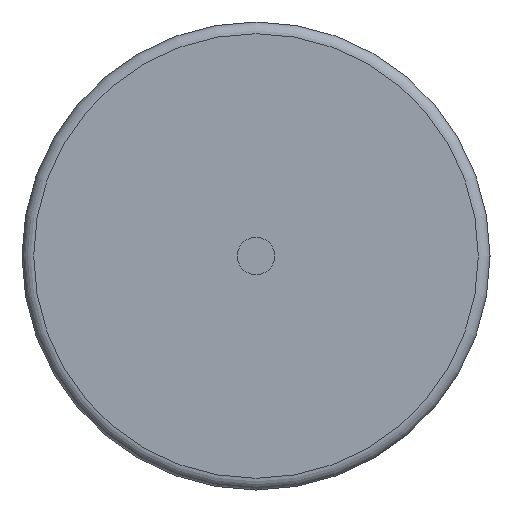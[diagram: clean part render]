
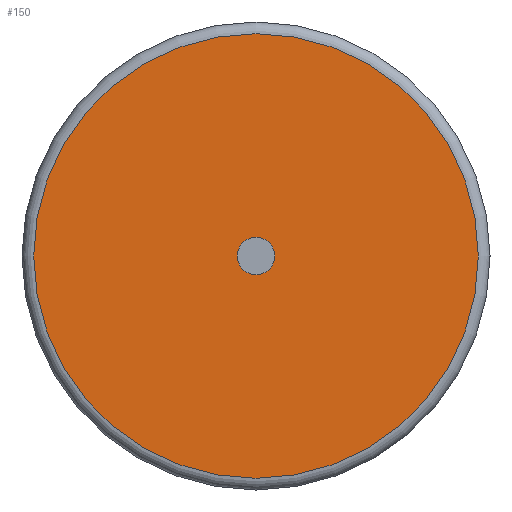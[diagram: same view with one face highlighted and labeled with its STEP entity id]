
A CAD part, left-side view. The second image highlights one B-rep face of the part: STEP entity #150.
In plain terms, the highlighted planar face has unit normal (-1, 0, 0).
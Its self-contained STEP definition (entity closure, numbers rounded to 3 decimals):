
#15=PLANE('',#172);
#28=FACE_BOUND('',#58,.T.);
#39=FACE_OUTER_BOUND('',#57,.T.);
#57=EDGE_LOOP('',(#117));
#58=EDGE_LOOP('',(#118));
#76=CIRCLE('',#169,4.75);
#78=CIRCLE('',#173,0.4);
#88=VERTEX_POINT('',#252);
#90=VERTEX_POINT('',#258);
#100=EDGE_CURVE('',#88,#88,#76,.T.);
#102=EDGE_CURVE('',#90,#90,#78,.T.);
#117=ORIENTED_EDGE('',*,*,#100,.F.);
#118=ORIENTED_EDGE('',*,*,#102,.F.);
#150=ADVANCED_FACE('',(#39,#28),#15,.T.);
#169=AXIS2_PLACEMENT_3D('',#253,#205,#206);
#172=AXIS2_PLACEMENT_3D('',#257,#211,#212);
#173=AXIS2_PLACEMENT_3D('',#259,#213,#214);
#205=DIRECTION('center_axis',(1.,0.,0.));
#206=DIRECTION('ref_axis',(0.,0.,-1.));
#211=DIRECTION('center_axis',(-1.,0.,0.));
#212=DIRECTION('ref_axis',(0.,0.,1.));
#213=DIRECTION('center_axis',(-1.,0.,0.));
#214=DIRECTION('ref_axis',(0.,0.,1.));
#252=CARTESIAN_POINT('',(-8.5,0.,4.75));
#253=CARTESIAN_POINT('Origin',(-8.5,0.,0.));
#257=CARTESIAN_POINT('Origin',(-8.5,0.,0.4));
#258=CARTESIAN_POINT('',(-8.5,0.,0.4));
#259=CARTESIAN_POINT('Origin',(-8.5,0.,0.));
